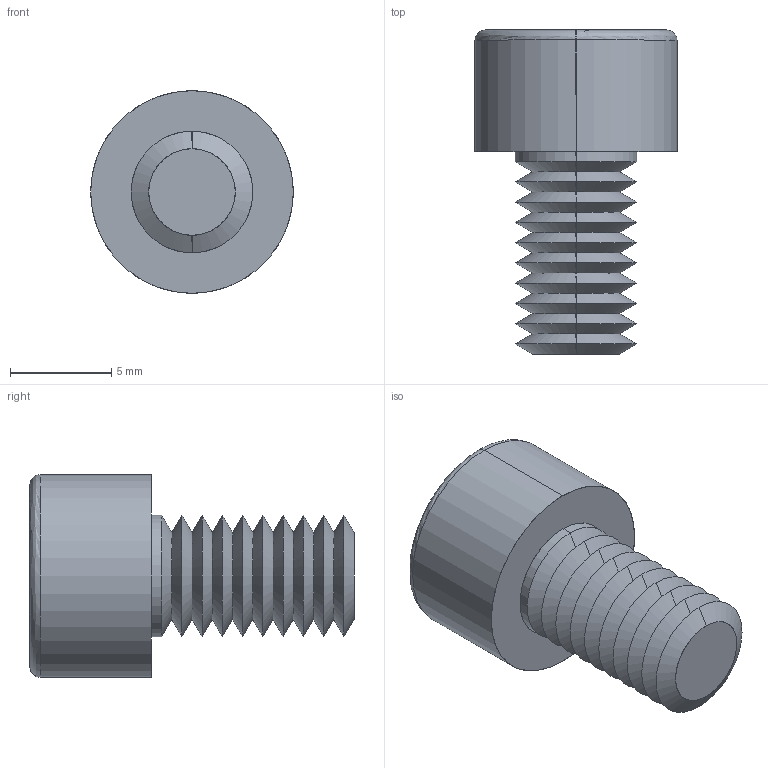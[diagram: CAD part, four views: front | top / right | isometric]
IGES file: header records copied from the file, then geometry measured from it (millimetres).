
Start section: SolidWorks IGES file using analytic representation for surfaces
Global section: file name: C:\Users\ianosborn\Desktop\N0007.91N_v2\N0007.91N_v2_20250519_IGES\91N.060.0100.igs; native system: SolidWorks 2019; preprocessor: SolidWorks 2019; author: IanOsborn; date: 250520.095232; units: millimetre
Bounding box: 10 x 16 x 10 mm (x, y, z)
Surface area: 729.2 mm2 (no closed solid volume)
Topology: 0 solids, 0 shells, 68 faces, 469 edges, 467 vertices
Faces by surface type: revolution 51, bspline 17
